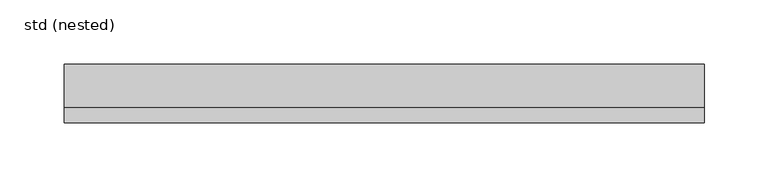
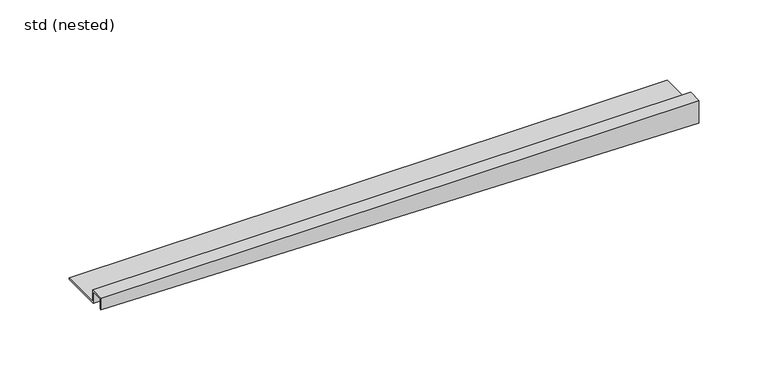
"""IFC4 building model written with IfcOpenShell, lengths in millimetres: sanitary terminal geometry, ZZZ_do not use_PF_UN_ShowerStep_ACO : std (nested)."""

from ifc_helpers import new_model, si_unit, origin, place, context, project, spatial, faceted_brep, source, transform, mapped, element, save


def std_nested_42870411(model_context):
    return source(origin(), model_context, "Body", "Brep", [
        faceted_brep([(0.0, 12.0076915, -10.0), (0.0, 46.0004219, -10.0), (0.0, 46.0004219, -11.0), (0.0, 11.0004219, -11.0), (0.0, 11.0004219, -1.0), (0.0, 1.0, -1.0), (0.0, 1.0, -10.0), (0.0, 0.0, -10.0), (0.0, 0.0, 0.0), (0.0, 12.0076915, 0.0), (500.0, 12.0076915, 0.0), (500.0, 12.0076915, -10.0), (500.0, 0.0, 0.0), (500.0, 0.0, -20.1010101), (500.0, 1.0, -20.1010101), (500.0, 1.0, -1.0), (500.0, 11.0004219, -1.0), (500.0, 11.0004219, -11.0), (500.0, 46.0004219, -11.0), (500.0, 46.0004219, -10.0)], [[[0, 1, 2, 3, 4, 5, 6, 7, 8, 9]], [[0, 9, 10, 11]], [[9, 8, 12, 10]], [[8, 7, 13, 12]], [[7, 6, 14, 13]], [[6, 5, 15, 14]], [[5, 4, 16, 15]], [[4, 3, 17, 16]], [[3, 2, 18, 17]], [[2, 1, 19, 18]], [[1, 0, 11, 19]], [[11, 10, 12, 13, 14, 15, 16, 17, 18, 19]]]),
    ])


if __name__ == "__main__":
    model = new_model("IFC4")
    model_context = context("Model", 3, world=origin())
    ifc_project = project(units=[si_unit("LENGTHUNIT", "METRE", prefix="MILLI")], contexts=[model_context])
    site = spatial("IfcSite", under=ifc_project)
    building = spatial("IfcBuilding", under=site)
    placement = place(None, origin())
    std_nested_shape = std_nested_42870411(model_context)
    element("IfcSanitaryTerminal", 1, ObjectType="ZZZ_do not use_PF_UN_ShowerStep_ACO : std (nested)", at=placement, inside=building, context=model_context, shape_type="MappedRepresentation", body=[
        mapped(std_nested_shape, transform((0.0, 0.0, 0.0), x_axis=(1.0, 0.0, 0.0), y_axis=(0.0, 1.0, 0.0), z_axis=(0.0, 0.0, 1.0))),
    ])
    save(model, "model.ifc")
